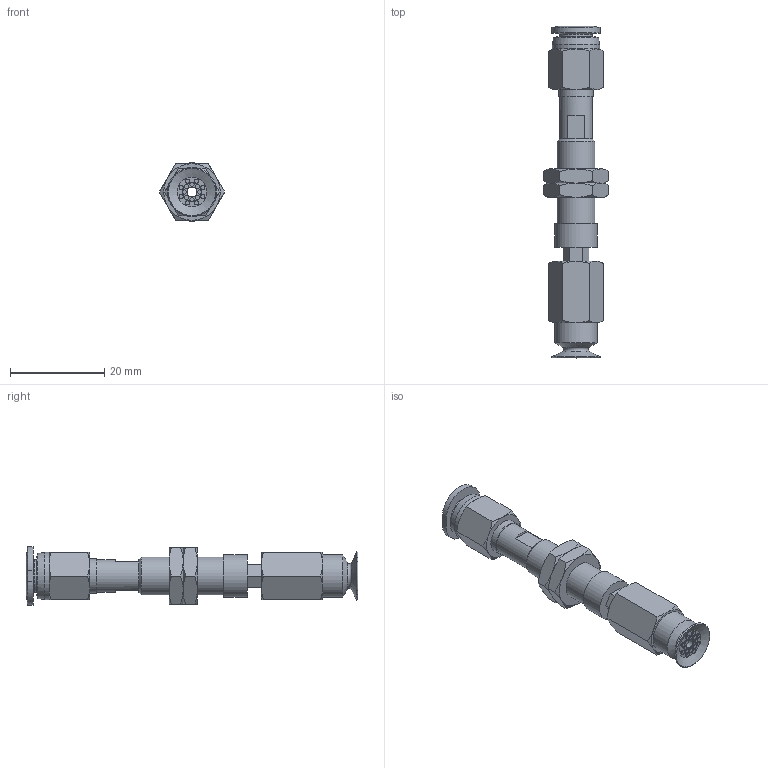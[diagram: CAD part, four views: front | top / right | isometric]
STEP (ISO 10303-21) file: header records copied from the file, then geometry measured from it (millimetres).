
FILE_DESCRIPTION(('STEP AP203'),'1');
FILE_NAME('-O.stp','2025-08-11T08:20:16',(' '),(' '),'Spatial InterOp 3D',' ',' ');
FILE_SCHEMA(('CONFIG_CONTROL_DESIGN'));
Length unit declared in the file: millimetre
Products named in the file (7): BNABPATH-10A-3-※-O; NAPATH-10A-3--F; Nut-10A-S; PC-C_06-M5; BPAG-10A-※; NAPATH-10A-3--M; ADAPTER
Assembly tree (7 placements, depth 2):
  BNABPATH-10A-3-※-O
    NAPATH-10A-3--F
    Nut-10A-S  x2
    PC-C_06-M5
    BPAG-10A-※
    NAPATH-10A-3--M
    ADAPTER
Bounding box: 13.86 x 70.48 x 12.4 mm (x, y, z)
Volume: 4188.3 mm3; surface area: 5091.8 mm2
Topology: 7 solids, 7 shells, 206 faces, 412 edges, 252 vertices
Faces by surface type: plane 86, cone 62, cylinder 39, torus 12, bspline 4, revolution 3
Full cylindrical faces by diameter (mm): 0.9 x16, 2 x3, 4 x4, 4.134 x1, 5 x1, 6 x2, 7 x2, 7.188 x2, 7.4 x1, 8 x1, 8.2 x1, 9 x2, 10 x1
Entity records: 5120 total; most frequent: CARTESIAN_POINT 1348, DIRECTION 719, ORIENTED_EDGE 586, AXIS2_PLACEMENT_3D 322, EDGE_CURVE 293, EDGE_LOOP 286, FACE_OUTER_BOUND 231, VERTEX_POINT 215
